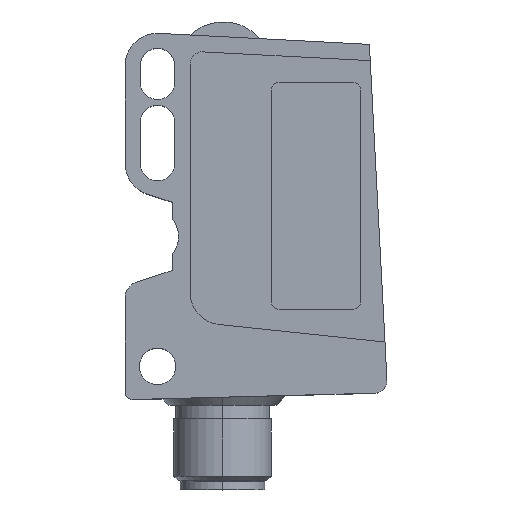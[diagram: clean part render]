
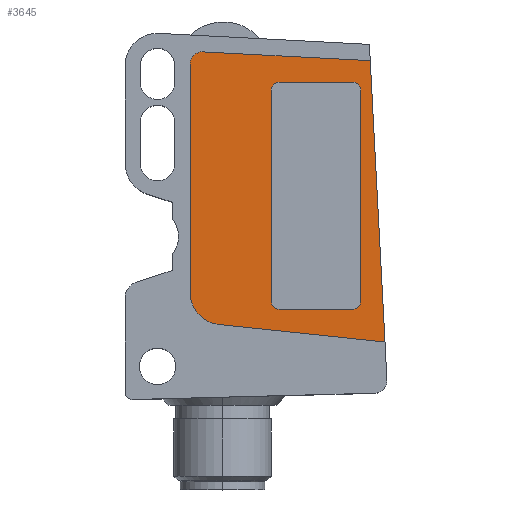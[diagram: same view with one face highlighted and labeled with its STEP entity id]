
A CAD part, top view. The second image highlights one B-rep face of the part: STEP entity #3645.
In plain terms, the highlighted planar face has unit normal (0, 0, 1).
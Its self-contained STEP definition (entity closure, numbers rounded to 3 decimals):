
#1100=DIRECTION('',(0.,1.,0.));
#1101=VECTOR('',#1100,26.);
#1102=CARTESIAN_POINT('',(14.,8.,8.9));
#1103=LINE('',#1102,#1101);
#1104=CARTESIAN_POINT('',(15.,8.,8.9));
#1105=DIRECTION('',(0.,0.,-1.));
#1106=DIRECTION('',(0.,-1.,0.));
#1107=AXIS2_PLACEMENT_3D('',#1104,#1105,#1106);
#1109=DIRECTION('',(-1.,0.,0.));
#1110=VECTOR('',#1109,9.);
#1111=CARTESIAN_POINT('',(24.,7.,8.9));
#1112=LINE('',#1111,#1110);
#1113=CARTESIAN_POINT('',(24.,8.,8.9));
#1114=DIRECTION('',(0.,0.,-1.));
#1115=DIRECTION('',(1.,0.,0.));
#1116=AXIS2_PLACEMENT_3D('',#1113,#1114,#1115);
#1118=DIRECTION('',(0.,-1.,0.));
#1119=VECTOR('',#1118,26.);
#1120=CARTESIAN_POINT('',(25.,34.,8.9));
#1121=LINE('',#1120,#1119);
#1122=CARTESIAN_POINT('',(24.,34.,8.9));
#1123=DIRECTION('',(0.,0.,-1.));
#1124=DIRECTION('',(0.,1.,0.));
#1125=AXIS2_PLACEMENT_3D('',#1122,#1123,#1124);
#1127=DIRECTION('',(1.,0.,0.));
#1128=VECTOR('',#1127,9.);
#1129=CARTESIAN_POINT('',(15.,35.,8.9));
#1130=LINE('',#1129,#1128);
#1131=CARTESIAN_POINT('',(15.,34.,8.9));
#1132=DIRECTION('',(0.,0.,-1.));
#1133=DIRECTION('',(-1.,0.,0.));
#1134=AXIS2_PLACEMENT_3D('',#1131,#1132,#1133);
#1136=DIRECTION('',(-0.052,0.999,0.));
#1137=VECTOR('',#1136,34.678);
#1138=CARTESIAN_POINT('',(28.,3.,8.9));
#1139=LINE('',#1138,#1137);
#1140=DIRECTION('',(0.995,-0.105,0.));
#1141=VECTOR('',#1140,20.53);
#1142=CARTESIAN_POINT('',(7.582,5.146,8.9));
#1143=LINE('',#1142,#1141);
#1144=CARTESIAN_POINT('',(8.,9.124,8.9));
#1145=DIRECTION('',(0.,0.,1.));
#1146=DIRECTION('',(-1.,0.,0.));
#1147=AXIS2_PLACEMENT_3D('',#1144,#1145,#1146);
#1149=CARTESIAN_POINT('',(5.5,37.212,8.9));
#1150=DIRECTION('',(0.,0.,1.));
#1151=DIRECTION('',(0.052,0.999,0.));
#1152=AXIS2_PLACEMENT_3D('',#1149,#1150,#1151);
#1154=DIRECTION('',(-0.999,0.052,0.));
#1155=VECTOR('',#1154,20.635);
#1156=CARTESIAN_POINT('',(26.185,37.63,8.9));
#1157=LINE('',#1156,#1155);
#1238=DIRECTION('',(0.,1.,0.));
#1239=VECTOR('',#1238,28.088);
#1240=CARTESIAN_POINT('',(4.,9.124,8.9));
#1241=LINE('',#1240,#1239);
#1488=CARTESIAN_POINT('',(26.185,37.63,8.9));
#1489=VERTEX_POINT('',#1488);
#1490=CARTESIAN_POINT('',(28.,3.,8.9));
#1491=VERTEX_POINT('',#1490);
#1628=CARTESIAN_POINT('',(14.,8.,8.9));
#1629=CARTESIAN_POINT('',(14.,34.,8.9));
#1630=VERTEX_POINT('',#1628);
#1631=VERTEX_POINT('',#1629);
#1632=CARTESIAN_POINT('',(15.,35.,8.9));
#1633=VERTEX_POINT('',#1632);
#1634=CARTESIAN_POINT('',(24.,35.,8.9));
#1635=VERTEX_POINT('',#1634);
#1636=CARTESIAN_POINT('',(25.,34.,8.9));
#1637=VERTEX_POINT('',#1636);
#1638=CARTESIAN_POINT('',(25.,8.,8.9));
#1639=VERTEX_POINT('',#1638);
#1640=CARTESIAN_POINT('',(24.,7.,8.9));
#1641=VERTEX_POINT('',#1640);
#1642=CARTESIAN_POINT('',(15.,7.,8.9));
#1643=VERTEX_POINT('',#1642);
#1644=CARTESIAN_POINT('',(5.579,38.71,8.9));
#1645=VERTEX_POINT('',#1644);
#1646=CARTESIAN_POINT('',(4.,37.212,8.9));
#1647=VERTEX_POINT('',#1646);
#1648=CARTESIAN_POINT('',(4.,9.124,8.9));
#1649=VERTEX_POINT('',#1648);
#1650=CARTESIAN_POINT('',(7.582,5.146,8.9));
#1651=VERTEX_POINT('',#1650);
#3610=CARTESIAN_POINT('',(8.,9.124,8.9));
#3611=DIRECTION('',(0.,0.,1.));
#3612=DIRECTION('',(1.,0.,0.));
#3613=AXIS2_PLACEMENT_3D('',#3610,#3611,#3612);
#3614=PLANE('',#3613);
#3615=ORIENTED_EDGE('',*,*,#1872,.F.);
#3617=ORIENTED_EDGE('',*,*,#3616,.F.);
#3619=ORIENTED_EDGE('',*,*,#3618,.F.);
#3621=ORIENTED_EDGE('',*,*,#3620,.T.);
#3623=ORIENTED_EDGE('',*,*,#3622,.F.);
#3624=ORIENTED_EDGE('',*,*,#3595,.F.);
#3625=EDGE_LOOP('',(#3615,#3617,#3619,#3621,#3623,#3624));
#3626=FACE_OUTER_BOUND('',#3625,.F.);
#3628=ORIENTED_EDGE('',*,*,#3627,.F.);
#3630=ORIENTED_EDGE('',*,*,#3629,.F.);
#3632=ORIENTED_EDGE('',*,*,#3631,.F.);
#3634=ORIENTED_EDGE('',*,*,#3633,.F.);
#3636=ORIENTED_EDGE('',*,*,#3635,.F.);
#3638=ORIENTED_EDGE('',*,*,#3637,.F.);
#3640=ORIENTED_EDGE('',*,*,#3639,.F.);
#3642=ORIENTED_EDGE('',*,*,#3641,.F.);
#3643=EDGE_LOOP('',(#3628,#3630,#3632,#3634,#3636,#3638,#3640,#3642));
#3644=FACE_BOUND('',#3643,.F.);
#1108=CIRCLE('',#1107,1.);
#1117=CIRCLE('',#1116,1.);
#1126=CIRCLE('',#1125,1.);
#1135=CIRCLE('',#1134,1.);
#1148=CIRCLE('',#1147,4.);
#1153=CIRCLE('',#1152,1.5);
#1872=EDGE_CURVE('',#1491,#1489,#1139,.T.);
#3595=EDGE_CURVE('',#1489,#1645,#1157,.T.);
#3616=EDGE_CURVE('',#1651,#1491,#1143,.T.);
#3618=EDGE_CURVE('',#1649,#1651,#1148,.T.);
#3620=EDGE_CURVE('',#1649,#1647,#1241,.T.);
#3622=EDGE_CURVE('',#1645,#1647,#1153,.T.);
#3627=EDGE_CURVE('',#1630,#1631,#1103,.T.);
#3629=EDGE_CURVE('',#1643,#1630,#1108,.T.);
#3631=EDGE_CURVE('',#1641,#1643,#1112,.T.);
#3633=EDGE_CURVE('',#1639,#1641,#1117,.T.);
#3635=EDGE_CURVE('',#1637,#1639,#1121,.T.);
#3637=EDGE_CURVE('',#1635,#1637,#1126,.T.);
#3639=EDGE_CURVE('',#1633,#1635,#1130,.T.);
#3641=EDGE_CURVE('',#1631,#1633,#1135,.T.);
#3645=ADVANCED_FACE('',(#3626,#3644),#3614,.T.);
